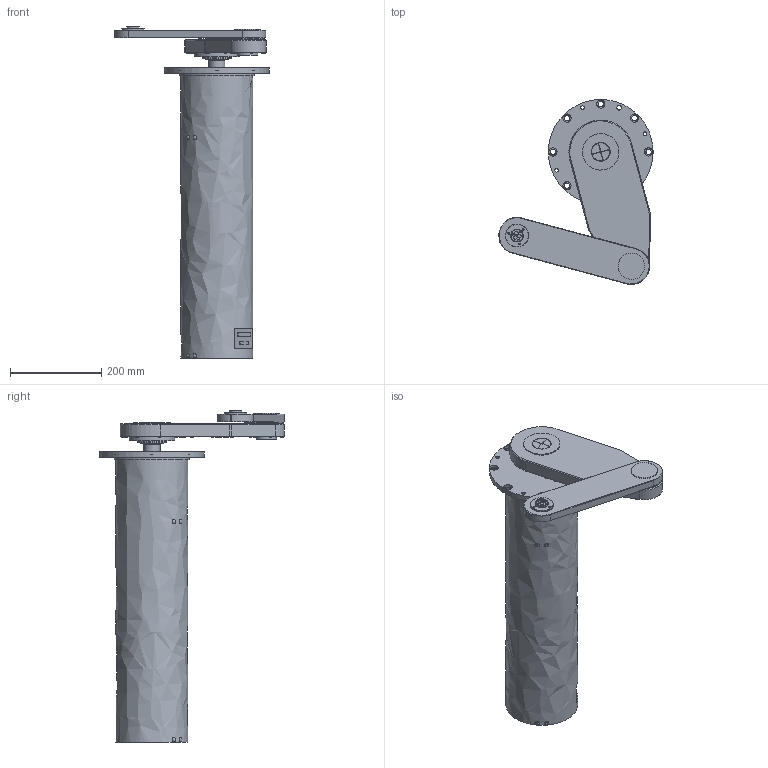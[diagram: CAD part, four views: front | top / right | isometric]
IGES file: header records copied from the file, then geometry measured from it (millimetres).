
Global section: file name: SVCR3260-040-PM-04456E; native system: Autodesk Inventor 2016; preprocessor: unknown; author: m-takamori; date: 20160525.141454; units: millimetre
Bounding box: 338.78 x 406.12 x 729 mm (x, y, z)
Volume: 14549243.2 mm3; surface area: 615733.2 mm2
Topology: 5 solids, 5 shells, 281 faces, 595 edges, 378 vertices
Faces by surface type: bspline 281
